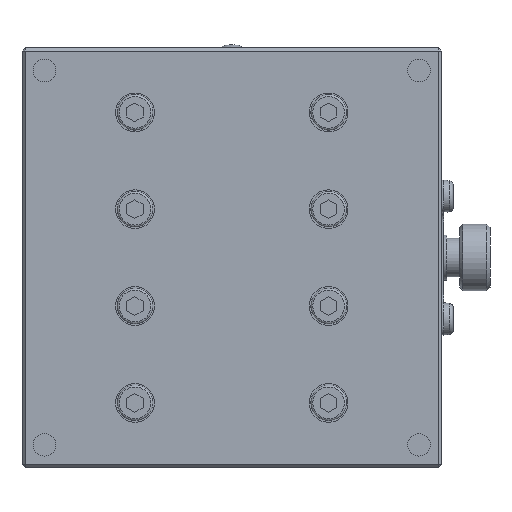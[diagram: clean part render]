
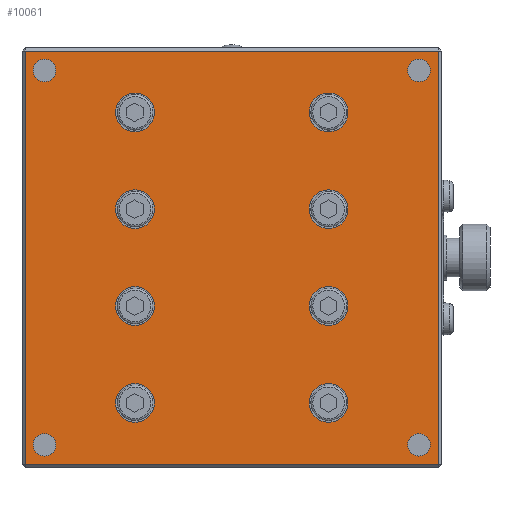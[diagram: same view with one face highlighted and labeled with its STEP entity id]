
A CAD part, front view. The second image highlights one B-rep face of the part: STEP entity #10061.
In plain terms, the highlighted planar face has unit normal (0, -1, 0).
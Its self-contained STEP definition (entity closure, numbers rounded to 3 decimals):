
#309=LINE('',#14954,#1360);
#310=LINE('',#14957,#1361);
#311=LINE('',#14959,#1362);
#312=LINE('',#14961,#1363);
#1360=VECTOR('',#11859,1000.);
#1361=VECTOR('',#11860,1000.);
#1362=VECTOR('',#11861,1000.);
#1363=VECTOR('',#11862,1000.);
#2422=ORIENTED_EDGE('',*,*,#5271,.T.);
#2423=ORIENTED_EDGE('',*,*,#5272,.T.);
#2424=ORIENTED_EDGE('',*,*,#5273,.T.);
#2425=ORIENTED_EDGE('',*,*,#5274,.T.);
#2426=ORIENTED_EDGE('',*,*,#5275,.F.);
#2427=ORIENTED_EDGE('',*,*,#5276,.F.);
#2428=ORIENTED_EDGE('',*,*,#5277,.F.);
#2429=ORIENTED_EDGE('',*,*,#5278,.F.);
#2430=ORIENTED_EDGE('',*,*,#5279,.F.);
#2431=ORIENTED_EDGE('',*,*,#5280,.F.);
#2432=ORIENTED_EDGE('',*,*,#5281,.F.);
#2433=ORIENTED_EDGE('',*,*,#5282,.F.);
#2434=ORIENTED_EDGE('',*,*,#5283,.F.);
#2435=ORIENTED_EDGE('',*,*,#5284,.F.);
#2436=ORIENTED_EDGE('',*,*,#5285,.F.);
#2437=ORIENTED_EDGE('',*,*,#5286,.F.);
#5271=EDGE_CURVE('',#6695,#6696,#309,.T.);
#5272=EDGE_CURVE('',#6696,#6697,#310,.T.);
#5273=EDGE_CURVE('',#6697,#6698,#311,.T.);
#5274=EDGE_CURVE('',#6698,#6695,#312,.T.);
#5275=EDGE_CURVE('',#6699,#6699,#7589,.T.);
#5276=EDGE_CURVE('',#6700,#6700,#7590,.T.);
#5277=EDGE_CURVE('',#6701,#6701,#7591,.T.);
#5278=EDGE_CURVE('',#6702,#6702,#7592,.T.);
#5279=EDGE_CURVE('',#6703,#6703,#7593,.T.);
#5280=EDGE_CURVE('',#6704,#6704,#7594,.T.);
#5281=EDGE_CURVE('',#6705,#6705,#7595,.T.);
#5282=EDGE_CURVE('',#6706,#6706,#7596,.T.);
#5283=EDGE_CURVE('',#6707,#6707,#7597,.T.);
#5284=EDGE_CURVE('',#6708,#6708,#7598,.T.);
#5285=EDGE_CURVE('',#6709,#6709,#7599,.T.);
#5286=EDGE_CURVE('',#6710,#6710,#7600,.T.);
#6695=VERTEX_POINT('',#14955);
#6696=VERTEX_POINT('',#14956);
#6697=VERTEX_POINT('',#14958);
#6698=VERTEX_POINT('',#14960);
#6699=VERTEX_POINT('',#14963);
#6700=VERTEX_POINT('',#14965);
#6701=VERTEX_POINT('',#14967);
#6702=VERTEX_POINT('',#14969);
#6703=VERTEX_POINT('',#14971);
#6704=VERTEX_POINT('',#14973);
#6705=VERTEX_POINT('',#14975);
#6706=VERTEX_POINT('',#14977);
#6707=VERTEX_POINT('',#14979);
#6708=VERTEX_POINT('',#14981);
#6709=VERTEX_POINT('',#14983);
#6710=VERTEX_POINT('',#14985);
#7589=CIRCLE('',#10757,1.75);
#7590=CIRCLE('',#10758,1.75);
#7591=CIRCLE('',#10759,1.75);
#7592=CIRCLE('',#10760,1.75);
#7593=CIRCLE('',#10761,3.);
#7594=CIRCLE('',#10762,3.);
#7595=CIRCLE('',#10763,3.);
#7596=CIRCLE('',#10764,3.);
#7597=CIRCLE('',#10765,3.);
#7598=CIRCLE('',#10766,3.);
#7599=CIRCLE('',#10767,3.);
#7600=CIRCLE('',#10768,3.);
#7961=EDGE_LOOP('',(#2422,#2423,#2424,#2425));
#7962=EDGE_LOOP('',(#2426));
#7963=EDGE_LOOP('',(#2427));
#7964=EDGE_LOOP('',(#2428));
#7965=EDGE_LOOP('',(#2429));
#7966=EDGE_LOOP('',(#2430));
#7967=EDGE_LOOP('',(#2431));
#7968=EDGE_LOOP('',(#2432));
#7969=EDGE_LOOP('',(#2433));
#7970=EDGE_LOOP('',(#2434));
#7971=EDGE_LOOP('',(#2435));
#7972=EDGE_LOOP('',(#2436));
#7973=EDGE_LOOP('',(#2437));
#8796=FACE_BOUND('',#7961,.T.);
#8797=FACE_BOUND('',#7962,.T.);
#8798=FACE_BOUND('',#7963,.T.);
#8799=FACE_BOUND('',#7964,.T.);
#8800=FACE_BOUND('',#7965,.T.);
#8801=FACE_BOUND('',#7966,.T.);
#8802=FACE_BOUND('',#7967,.T.);
#8803=FACE_BOUND('',#7968,.T.);
#8804=FACE_BOUND('',#7969,.T.);
#8805=FACE_BOUND('',#7970,.T.);
#8806=FACE_BOUND('',#7971,.T.);
#8807=FACE_BOUND('',#7972,.T.);
#8808=FACE_BOUND('',#7973,.T.);
#9621=PLANE('',#10756);
#10061=ADVANCED_FACE('',(#8796,#8797,#8798,#8799,#8800,#8801,#8802,#8803,
#8804,#8805,#8806,#8807,#8808),#9621,.F.);
#10756=AXIS2_PLACEMENT_3D('',#14953,#11857,#11858);
#10757=AXIS2_PLACEMENT_3D('',#14962,#11863,#11864);
#10758=AXIS2_PLACEMENT_3D('',#14964,#11865,#11866);
#10759=AXIS2_PLACEMENT_3D('',#14966,#11867,#11868);
#10760=AXIS2_PLACEMENT_3D('',#14968,#11869,#11870);
#10761=AXIS2_PLACEMENT_3D('',#14970,#11871,#11872);
#10762=AXIS2_PLACEMENT_3D('',#14972,#11873,#11874);
#10763=AXIS2_PLACEMENT_3D('',#14974,#11875,#11876);
#10764=AXIS2_PLACEMENT_3D('',#14976,#11877,#11878);
#10765=AXIS2_PLACEMENT_3D('',#14978,#11879,#11880);
#10766=AXIS2_PLACEMENT_3D('',#14980,#11881,#11882);
#10767=AXIS2_PLACEMENT_3D('',#14982,#11883,#11884);
#10768=AXIS2_PLACEMENT_3D('',#14984,#11885,#11886);
#11857=DIRECTION('',(0.,1.,0.));
#11858=DIRECTION('',(0.,0.,1.));
#11859=DIRECTION('',(-1.,0.,0.));
#11860=DIRECTION('',(0.,0.,-1.));
#11861=DIRECTION('',(1.,0.,0.));
#11862=DIRECTION('',(0.,0.,1.));
#11863=DIRECTION('',(0.,-1.,0.));
#11864=DIRECTION('',(0.,0.,-1.));
#11865=DIRECTION('',(0.,-1.,0.));
#11866=DIRECTION('',(0.,0.,-1.));
#11867=DIRECTION('',(0.,-1.,0.));
#11868=DIRECTION('',(0.,0.,-1.));
#11869=DIRECTION('',(0.,-1.,0.));
#11870=DIRECTION('',(0.,0.,-1.));
#11871=DIRECTION('',(0.,-1.,0.));
#11872=DIRECTION('',(0.,0.,-1.));
#11873=DIRECTION('',(0.,-1.,0.));
#11874=DIRECTION('',(0.,0.,-1.));
#11875=DIRECTION('',(0.,-1.,0.));
#11876=DIRECTION('',(0.,0.,-1.));
#11877=DIRECTION('',(0.,-1.,0.));
#11878=DIRECTION('',(0.,0.,-1.));
#11879=DIRECTION('',(0.,-1.,0.));
#11880=DIRECTION('',(0.,0.,-1.));
#11881=DIRECTION('',(0.,-1.,0.));
#11882=DIRECTION('',(0.,0.,-1.));
#11883=DIRECTION('',(0.,-1.,0.));
#11884=DIRECTION('',(0.,0.,-1.));
#11885=DIRECTION('',(0.,-1.,0.));
#11886=DIRECTION('',(0.,0.,-1.));
#14953=CARTESIAN_POINT('',(-32.5,0.,32.5));
#14954=CARTESIAN_POINT('',(-32.5,0.,32.));
#14955=CARTESIAN_POINT('',(32.,0.,32.));
#14956=CARTESIAN_POINT('',(-32.,0.,32.));
#14957=CARTESIAN_POINT('',(-32.,0.,32.5));
#14958=CARTESIAN_POINT('',(-32.,0.,-32.));
#14959=CARTESIAN_POINT('',(-32.5,0.,-32.));
#14960=CARTESIAN_POINT('',(32.,0.,-32.));
#14961=CARTESIAN_POINT('',(32.,0.,32.5));
#14962=CARTESIAN_POINT('',(29.,0.,-29.));
#14963=CARTESIAN_POINT('',(29.,0.,-30.75));
#14964=CARTESIAN_POINT('',(-29.,0.,29.));
#14965=CARTESIAN_POINT('',(-29.,0.,27.25));
#14966=CARTESIAN_POINT('',(-29.,0.,-29.));
#14967=CARTESIAN_POINT('',(-29.,0.,-30.75));
#14968=CARTESIAN_POINT('',(29.,0.,29.));
#14969=CARTESIAN_POINT('',(29.,0.,27.25));
#14970=CARTESIAN_POINT('',(15.,0.,-7.5));
#14971=CARTESIAN_POINT('',(15.,0.,-10.5));
#14972=CARTESIAN_POINT('',(15.,0.,-22.5));
#14973=CARTESIAN_POINT('',(15.,0.,-25.5));
#14974=CARTESIAN_POINT('',(-15.,0.,22.5));
#14975=CARTESIAN_POINT('',(-15.,0.,19.5));
#14976=CARTESIAN_POINT('',(-15.,0.,7.5));
#14977=CARTESIAN_POINT('',(-15.,0.,4.5));
#14978=CARTESIAN_POINT('',(-15.,0.,-7.5));
#14979=CARTESIAN_POINT('',(-15.,0.,-10.5));
#14980=CARTESIAN_POINT('',(-15.,0.,-22.5));
#14981=CARTESIAN_POINT('',(-15.,0.,-25.5));
#14982=CARTESIAN_POINT('',(15.,0.,7.5));
#14983=CARTESIAN_POINT('',(15.,0.,4.5));
#14984=CARTESIAN_POINT('',(15.,0.,22.5));
#14985=CARTESIAN_POINT('',(15.,0.,19.5));
